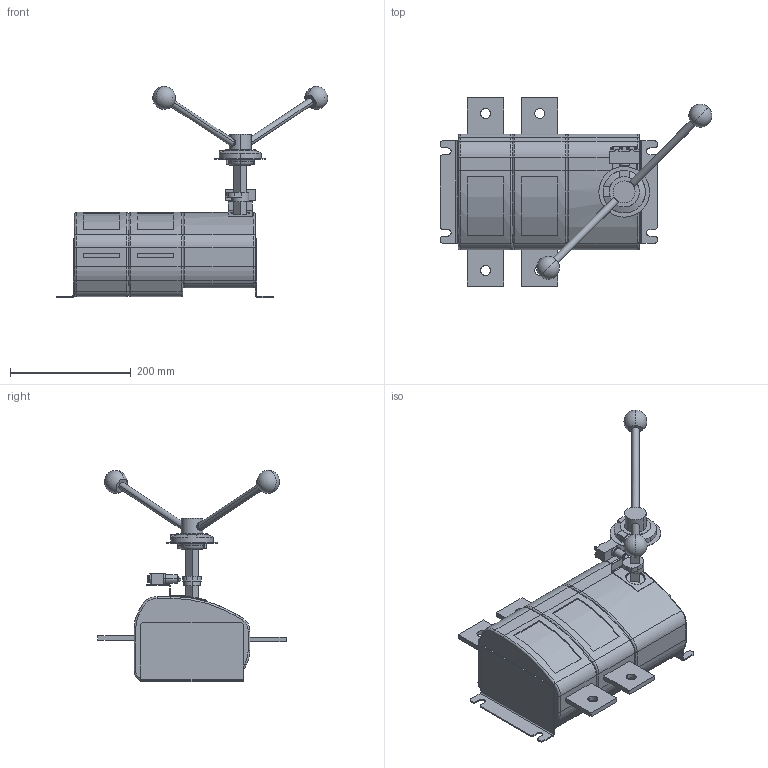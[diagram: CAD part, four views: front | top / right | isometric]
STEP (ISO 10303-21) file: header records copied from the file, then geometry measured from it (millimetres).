
FILE_DESCRIPTION (( 'STEP AP214' ), '1' );
FILE_NAME ('Âûêëþ÷àòåëü íàãðóçêè ÂÍÊ-41-21131-1000À-IP32-ÓÕË3-ÊÝÀÇ.STEP', '2023-04-19T13:35:22', ( '' ), ( '' ), 'SwSTEP 2.0', 'SolidWorks 2018', '' );
FILE_SCHEMA (( 'AUTOMOTIVE_DESIGN' ));
Length unit declared in the file: millimetre
Products named in the file (1): Âûêëþ÷àòåëü íàãðóçêè ÂÍÊ-41-21131-1000À-IP32-ÓÕË3-ÊÝÀÇ
Bounding box: 449.53 x 311.4 x 349.8 mm (x, y, z)
Volume: 7275717.6 mm3; surface area: 469955.9 mm2
Topology: 11 solids, 11 shells, 398 faces, 961 edges, 609 vertices
Faces by surface type: plane 185, cylinder 157, torus 46, sphere 6, cone 4
Entity records: 16587 total; most frequent: CARTESIAN_POINT 2543, DIRECTION 2119, ORIENTED_EDGE 1894, EDGE_CURVE 947, AXIS2_PLACEMENT_3D 797, VERTEX_POINT 601, LINE 525, VECTOR 525
